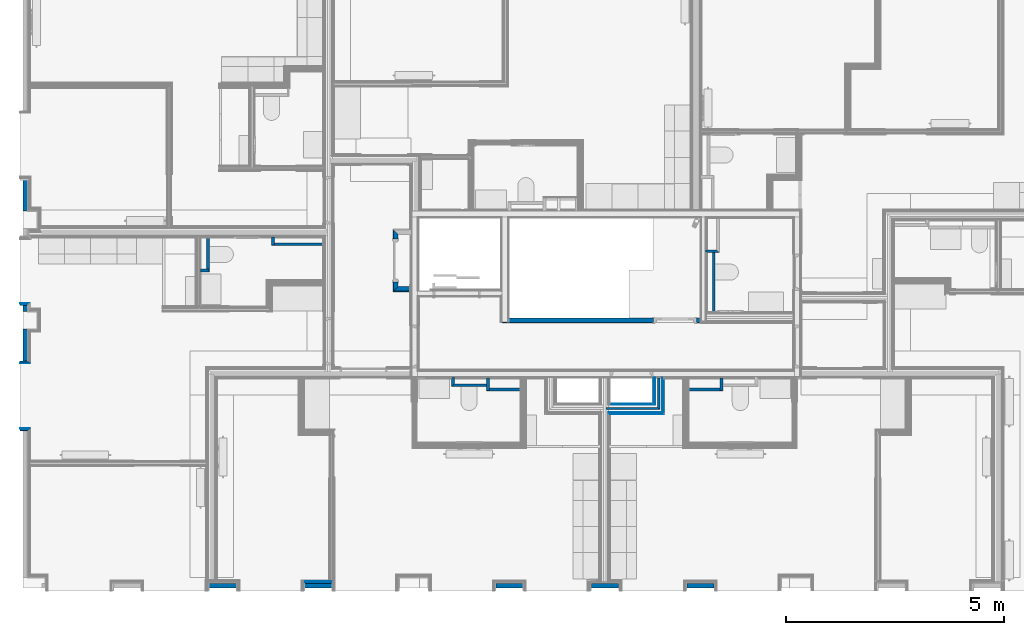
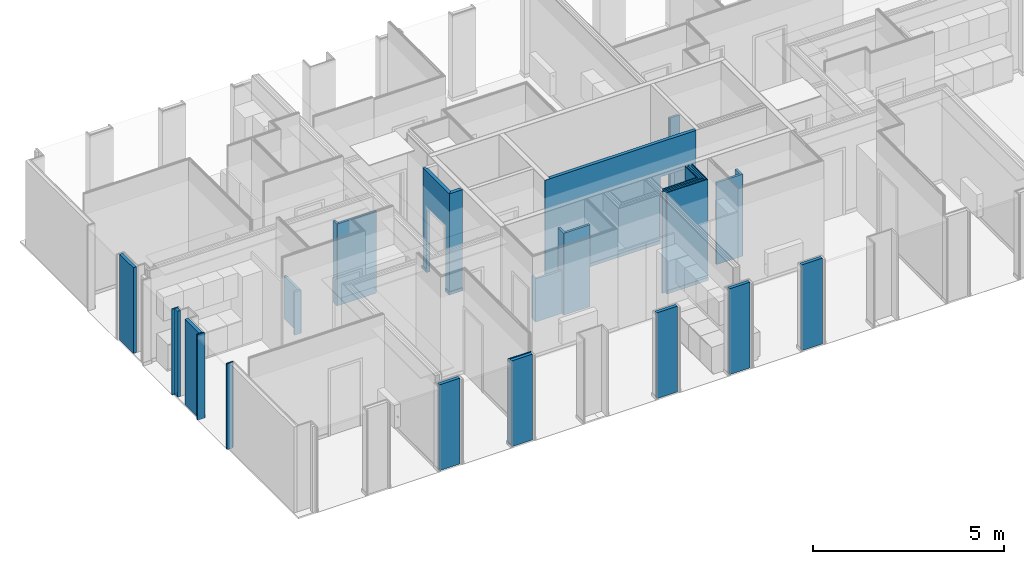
# One storey, part 2 of 64: 42 walls, 2 openings.
"""IFC2X3 building model written with IfcOpenShell, lengths in metres."""

from ifc_helpers import new_model, entity, si_unit, converted_unit, derived_unit, money_unit, direction, frame, frame_2d, origin_with_axes, place, context, subcontext, project, spatial, polyline, rectangle, outline, extrude, clip, bounded_halfspace, material, layer, layer_set, layer_usage, type_object, element, save


model = new_model("IFC2X3")

# Units and contexts
model_context = context("Model", 3, precision=1e-05, world=origin_with_axes(), true_north=direction((0.0, 1.0)))
body_context = subcontext(model_context, "Body", "Model", "MODEL_VIEW", scale=1.0)
ifc_project = project(units=[si_unit("LENGTHUNIT", "METRE"), si_unit("AREAUNIT", "SQUARE_METRE"), si_unit("VOLUMEUNIT", "CUBIC_METRE"), si_unit("ABSORBEDDOSEUNIT", "GRAY"), si_unit("AMOUNTOFSUBSTANCEUNIT", "MOLE"), si_unit("DOSEEQUIVALENTUNIT", "SIEVERT"), si_unit("ELECTRICCAPACITANCEUNIT", "FARAD"), si_unit("ELECTRICCHARGEUNIT", "COULOMB"), si_unit("ELECTRICCONDUCTANCEUNIT", "SIEMENS"), si_unit("ELECTRICCURRENTUNIT", "AMPERE"), si_unit("ELECTRICRESISTANCEUNIT", "OHM"), si_unit("ELECTRICVOLTAGEUNIT", "VOLT"), si_unit("ENERGYUNIT", "JOULE"), si_unit("FORCEUNIT", "NEWTON"), si_unit("FREQUENCYUNIT", "HERTZ"), si_unit("ILLUMINANCEUNIT", "LUX"), si_unit("INDUCTANCEUNIT", "HENRY"), si_unit("LUMINOUSFLUXUNIT", "LUMEN"), si_unit("LUMINOUSINTENSITYUNIT", "CANDELA"), si_unit("MAGNETICFLUXDENSITYUNIT", "TESLA"), si_unit("MAGNETICFLUXUNIT", "WEBER"), si_unit("MASSUNIT", "GRAM"), converted_unit("PLANEANGLEUNIT", "degree", entity("IfcReal", 0.0174532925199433), si_unit("PLANEANGLEUNIT", "RADIAN"), dimensions=[0, 0, 0, 0, 0, 0, 0]), si_unit("POWERUNIT", "WATT"), si_unit("PRESSUREUNIT", "PASCAL"), si_unit("RADIOACTIVITYUNIT", "BECQUEREL"), si_unit("SOLIDANGLEUNIT", "STERADIAN"), si_unit("THERMODYNAMICTEMPERATUREUNIT", "KELVIN"), si_unit("TIMEUNIT", "SECOND"), derived_unit("ACCELERATIONUNIT", [(si_unit("LENGTHUNIT", "METRE"), 1), (si_unit("TIMEUNIT", "SECOND"), -2)]), derived_unit("ANGULARVELOCITYUNIT", [(converted_unit("PLANEANGLEUNIT", "degree", entity("IfcReal", 0.0174532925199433), si_unit("PLANEANGLEUNIT", "RADIAN"), dimensions=[0, 0, 0, 0, 0, 0, 0]), 1), (si_unit("TIMEUNIT", "SECOND"), -1)]), derived_unit("CURVATUREUNIT", [(converted_unit("PLANEANGLEUNIT", "degree", entity("IfcReal", 0.0174532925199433), si_unit("PLANEANGLEUNIT", "RADIAN"), dimensions=[0, 0, 0, 0, 0, 0, 0]), 1), (si_unit("LENGTHUNIT", "METRE"), -1)]), derived_unit("DYNAMICVISCOSITYUNIT", [(si_unit("PRESSUREUNIT", "PASCAL"), 1), (si_unit("TIMEUNIT", "SECOND"), 1)]), derived_unit("HEATFLUXDENSITYUNIT", [(si_unit("POWERUNIT", "WATT"), 1), (si_unit("LENGTHUNIT", "METRE"), -2)]), derived_unit("HEATINGVALUEUNIT", [(si_unit("ENERGYUNIT", "JOULE"), 1), (si_unit("MASSUNIT", "GRAM"), -1)]), derived_unit("INTEGERCOUNTRATEUNIT", [(si_unit("TIMEUNIT", "SECOND"), -1)]), derived_unit("IONCONCENTRATIONUNIT", [(si_unit("MASSUNIT", "GRAM"), 1), (si_unit("VOLUMEUNIT", "CUBIC_METRE"), -1)]), derived_unit("ISOTHERMALMOISTURECAPACITYUNIT", [(si_unit("VOLUMEUNIT", "CUBIC_METRE"), 1), (si_unit("MASSUNIT", "GRAM"), -1)]), derived_unit("KINEMATICVISCOSITYUNIT", [(si_unit("AREAUNIT", "SQUARE_METRE"), 1), (si_unit("TIMEUNIT", "SECOND"), -1)]), derived_unit("LINEARFORCEUNIT", [(si_unit("FORCEUNIT", "NEWTON"), 1), (si_unit("LENGTHUNIT", "METRE"), -1)]), derived_unit("LINEARMOMENTUNIT", [(si_unit("FORCEUNIT", "NEWTON"), 1), (si_unit("LENGTHUNIT", "METRE"), -1)]), derived_unit("LINEARSTIFFNESSUNIT", [(si_unit("FORCEUNIT", "NEWTON"), 1), (si_unit("LENGTHUNIT", "METRE"), -1)]), derived_unit("LINEARVELOCITYUNIT", [(si_unit("LENGTHUNIT", "METRE"), 1), (si_unit("TIMEUNIT", "SECOND"), -1)]), derived_unit("LUMINOUSINTENSITYDISTRIBUTIONUNIT", [(si_unit("LUMINOUSINTENSITYUNIT", "CANDELA"), 1), (si_unit("LUMINOUSFLUXUNIT", "LUMEN"), -1)]), derived_unit("MASSDENSITYUNIT", [(si_unit("MASSUNIT", "GRAM"), 1), (si_unit("VOLUMEUNIT", "CUBIC_METRE"), -1)]), derived_unit("MASSFLOWRATEUNIT", [(si_unit("MASSUNIT", "GRAM"), 1), (si_unit("TIMEUNIT", "SECOND"), -1)]), derived_unit("MASSPERLENGTHUNIT", [(si_unit("MASSUNIT", "GRAM"), 1), (si_unit("LENGTHUNIT", "METRE"), -1)]), derived_unit("MODULUSOFELASTICITYUNIT", [(si_unit("FORCEUNIT", "NEWTON"), 1), (si_unit("AREAUNIT", "SQUARE_METRE"), -1)]), derived_unit("MODULUSOFLINEARSUBGRADEREACTIONUNIT", [(si_unit("FORCEUNIT", "NEWTON"), 1), (si_unit("LENGTHUNIT", "METRE"), -2)]), derived_unit("MODULUSOFROTATIONALSUBGRADEREACTIONUNIT", [(si_unit("FORCEUNIT", "NEWTON"), 1), (si_unit("LENGTHUNIT", "METRE"), 1)]), derived_unit("MODULUSOFSUBGRADEREACTIONUNIT", [(si_unit("FORCEUNIT", "NEWTON"), 1), (si_unit("VOLUMEUNIT", "CUBIC_METRE"), -1)]), derived_unit("MOISTUREDIFFUSIVITYUNIT", [(si_unit("VOLUMEUNIT", "CUBIC_METRE"), 1), (si_unit("TIMEUNIT", "SECOND"), -1)]), derived_unit("MOLECULARWEIGHTUNIT", [(si_unit("MASSUNIT", "GRAM"), 1), (si_unit("AMOUNTOFSUBSTANCEUNIT", "MOLE"), -1)]), derived_unit("PLANARFORCEUNIT", [(si_unit("FORCEUNIT", "NEWTON"), 1), (si_unit("LENGTHUNIT", "METRE"), -2)]), derived_unit("ROTATIONALFREQUENCYUNIT", [(si_unit("TIMEUNIT", "SECOND"), -1)]), derived_unit("ROTATIONALMASSUNIT", [(si_unit("MASSUNIT", "GRAM"), 1), (si_unit("LENGTHUNIT", "METRE"), 2)]), derived_unit("ROTATIONALSTIFFNESSUNIT", [(si_unit("FORCEUNIT", "NEWTON"), 1), (si_unit("LENGTHUNIT", "METRE"), 1), (converted_unit("PLANEANGLEUNIT", "degree", entity("IfcReal", 0.0174532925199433), si_unit("PLANEANGLEUNIT", "RADIAN"), dimensions=[0, 0, 0, 0, 0, 0, 0]), -1)]), derived_unit("SECTIONAREAINTEGRALUNIT", [(si_unit("LENGTHUNIT", "METRE"), 5)]), derived_unit("SECTIONMODULUSUNIT", [(si_unit("LENGTHUNIT", "METRE"), 3)]), derived_unit("SHEARMODULUSUNIT", [(si_unit("FORCEUNIT", "NEWTON"), 1), (si_unit("AREAUNIT", "SQUARE_METRE"), -1)]), derived_unit("SOUNDPOWERUNIT", [(si_unit("ENERGYUNIT", "JOULE"), 1), (si_unit("TIMEUNIT", "SECOND"), -1)]), derived_unit("SPECIFICHEATCAPACITYUNIT", [(si_unit("FORCEUNIT", "NEWTON"), 1), (si_unit("MASSUNIT", "GRAM"), -1), (si_unit("THERMODYNAMICTEMPERATUREUNIT", "KELVIN"), -1)]), derived_unit("TEMPERATUREGRADIENTUNIT", [(si_unit("THERMODYNAMICTEMPERATUREUNIT", "KELVIN"), 1), (si_unit("LENGTHUNIT", "METRE"), -1)]), derived_unit("THERMALADMITTANCEUNIT", [(si_unit("POWERUNIT", "WATT"), 1), (si_unit("AREAUNIT", "SQUARE_METRE"), -1), (si_unit("THERMODYNAMICTEMPERATUREUNIT", "KELVIN"), -1)]), derived_unit("THERMALCONDUCTANCEUNIT", [(si_unit("POWERUNIT", "WATT"), 1), (si_unit("LENGTHUNIT", "METRE"), -1), (si_unit("THERMODYNAMICTEMPERATUREUNIT", "KELVIN"), -1)]), derived_unit("THERMALEXPANSIONCOEFFICIENTUNIT", [(si_unit("THERMODYNAMICTEMPERATUREUNIT", "KELVIN"), -1)]), derived_unit("THERMALRESISTANCEUNIT", [(si_unit("AREAUNIT", "SQUARE_METRE"), 1), (si_unit("POWERUNIT", "WATT"), -1)]), derived_unit("THERMALTRANSMITTANCEUNIT", [(si_unit("POWERUNIT", "WATT"), 1), (si_unit("AREAUNIT", "SQUARE_METRE"), -1), (si_unit("THERMODYNAMICTEMPERATUREUNIT", "KELVIN"), -1)]), derived_unit("TORQUEUNIT", [(si_unit("FORCEUNIT", "NEWTON"), 1), (si_unit("LENGTHUNIT", "METRE"), 1)]), derived_unit("VAPORPERMEABILITYUNIT", [(si_unit("MASSUNIT", "GRAM"), 1), (si_unit("TIMEUNIT", "SECOND"), -1)]), derived_unit("VOLUMETRICFLOWRATEUNIT", [(si_unit("VOLUMEUNIT", "CUBIC_METRE"), 1), (si_unit("TIMEUNIT", "SECOND"), -1)]), derived_unit("WARPINGCONSTANTUNIT", [(si_unit("LENGTHUNIT", "METRE"), 6)]), derived_unit("WARPINGMOMENTUNIT", [(si_unit("FORCEUNIT", "NEWTON"), 1), (si_unit("LENGTHUNIT", "METRE"), 2)]), money_unit("GBP")], contexts=[model_context])

# Site, building, storey
site_placement = place(None, origin_with_axes())
site = spatial("IfcSite", under=ifc_project, at=site_placement, Name="Site", CompositionType="ELEMENT")
building_placement = place(site_placement, origin_with_axes())
building = spatial("IfcBuilding", under=site, at=building_placement, Name="Building01", CompositionType="ELEMENT")
storey_placement = place(building_placement, frame((0.0, 0.0, 8.64), z_axis=(0.0, 0.0, 1.0), x_axis=(1.0, 0.0, 0.0)))
storey = spatial("IfcBuildingStorey", under=building, at=storey_placement, Name="2F", CompositionType="ELEMENT", Elevation=8.64)

# Walls
ifc_material_1 = material(Name="A_BSUK_WallsExternal_Block")
ifc_layer_1 = layer(ifc_material_1, 0.1, ventilated=False)
ifc_layer_set_1 = layer_set([ifc_layer_1])
ifc_layer_usage_1 = layer_usage(ifc_layer_set_1, "AXIS2", "POSITIVE", 0.0)
wall_type_1 = type_object("IfcWallType", Name="A-Walls-ExternalBlock", PredefinedType="NOTDEFINED")
wall_1_placement = place(storey_placement, frame((0.17, 9.51418, 0.0), z_axis=(0.0, 0.0, 1.0), x_axis=(0.0, -1.0, 0.0)))
element("IfcWallStandardCase", 1, at=wall_1_placement, inside=storey, type_object=wall_type_1, material=ifc_layer_usage_1, Name="A-Walls-ExternalBlock", ObjectType="A-Walls-ExternalBlock", context=body_context, shape_type="SweptSolid", body=[
    extrude(rectangle(XDim=0.1, YDim=0.71418, at=frame_2d((0.35709, 0.05), x_axis=(0.0, -1.0))), origin_with_axes(), (0.0, 0.0, 1.0), 2.74),
])
wall_2_placement = place(storey_placement, frame((0.17, 6.64418, 0.0), z_axis=(0.0, 0.0, 1.0), x_axis=(0.0, -1.0, 0.0)))
element("IfcWallStandardCase", 2, at=wall_2_placement, inside=storey, type_object=wall_type_1, material=ifc_layer_usage_1, Name="A-Walls-ExternalBlock", ObjectType="A-Walls-ExternalBlock", context=body_context, shape_type="SweptSolid", body=[
    extrude(rectangle(XDim=0.14418, YDim=0.1, at=frame_2d((0.07209, 0.05), x_axis=(1.0, 0.0))), origin_with_axes(), (0.0, 0.0, 1.0), 2.74),
])
wall_3_placement = place(storey_placement, frame((0.17, 6.1, 0.0), z_axis=(0.0, 0.0, 1.0), x_axis=(0.0, -1.0, 0.0)))
element("IfcWallStandardCase", 3, at=wall_3_placement, inside=storey, type_object=wall_type_1, material=ifc_layer_usage_1, Name="A-Walls-ExternalBlock", ObjectType="A-Walls-ExternalBlock", context=body_context, shape_type="SweptSolid", body=[
    extrude(rectangle(XDim=0.737, YDim=0.1, at=frame_2d((0.3685, 0.05), x_axis=(1.0, 0.0))), origin_with_axes(), (0.0, 0.0, 1.0), 2.74),
])
for number, where, z_axis, x_axis, name in (
    (4, (5.057, 0.27, 0.0), (0.0, 0.0, 1.0), (-1.0, 0.0, 0.0), "A-Walls-ExternalBlock"),
    (5, (7.247, 0.27, 0.0), (0.0, 0.0, 1.0), (-1.0, 0.0, 0.0), "A-Walls-ExternalBlock"),
    (6, (11.627, 0.27, 0.0), (0.0, 0.0, 1.0), (-1.0, 0.0, 0.0), "A-Walls-ExternalBlock"),
    (7, (13.817, 0.27, 0.0), (0.0, 0.0, 1.0), (-1.0, 0.0, 0.0), "A-Walls-ExternalBlock"),
    (8, (16.007, 0.27, 0.0), (0.0, 0.0, 1.0), (-1.0, 0.0, 0.0), "A-Walls-ExternalBlock"),
):
    element("IfcWallStandardCase", number, at=place(storey_placement, frame(where, z_axis=z_axis, x_axis=x_axis)), inside=storey, type_object=wall_type_1, material=ifc_layer_usage_1, Name=name, ObjectType="A-Walls-ExternalBlock", context=body_context, shape_type="SweptSolid", body=[
        extrude(rectangle(XDim=0.624, YDim=0.1, at=frame_2d((0.312, 0.05), x_axis=(-1.0, 0.0))), origin_with_axes(), (0.0, 0.0, 1.0), 2.74),
    ])
ifc_material_2 = material(Name="A_BSUK_Walls_Timber")
ifc_layer_2 = layer(ifc_material_2, 0.015, ventilated=False)
ifc_material_3 = material(Name="A_BSUK_OpeningsClearance")
ifc_layer_3 = layer(ifc_material_3, 0.05, ventilated=False)
ifc_layer_set_2 = layer_set([ifc_layer_2, ifc_layer_3])
ifc_layer_usage_2 = layer_usage(ifc_layer_set_2, "AXIS2", "POSITIVE", 0.0)
wall_type_2 = type_object("IfcWallType", Name="SHE_A-Walls_Type05c_PreWallShell_65mm", PredefinedType="NOTDEFINED")
wall_4_placement = place(storey_placement, frame((15.815, 7.915, 0.0), z_axis=(0.0, 0.0, 1.0), x_axis=(1.0, 0.0, 0.0)))
element("IfcWallStandardCase", 9, at=wall_4_placement, inside=storey, type_object=wall_type_2, material=ifc_layer_usage_2, Name="5C", ObjectType="SHE_A-Walls_Type05c_PreWallShell_65mm", context=body_context, shape_type="SweptSolid", body=[
    extrude(outline(polyline([(0.25, 0.0), (0.0, 0.0), (0.0, -0.05), (0.03, -0.05), (0.03, -0.065), (0.315, -0.065), (0.25, 0.0)])), origin_with_axes(), (0.0, 0.0, 1.0), 2.615),
])
wall_5_placement = place(storey_placement, frame((15.965, 6.59, 0.0), z_axis=(0.0, 0.0, 1.0), x_axis=(0.0, 1.0, 0.0)))
element("IfcWallStandardCase", 10, at=wall_5_placement, inside=storey, type_object=wall_type_2, material=ifc_layer_usage_2, Name="5C", ObjectType="SHE_A-Walls_Type05c_PreWallShell_65mm", context=body_context, shape_type="SweptSolid", body=[
    extrude(outline(polyline([(1.275, -0.05), (1.275, 0.0), (-0.103, 0.0), (-0.103, -0.05), (-0.115, -0.05), (-0.115, -0.065), (1.325, -0.065), (1.325, -0.05), (1.275, -0.05)])), origin_with_axes(), (0.0, 0.0, 1.0), 1.375),
])
wall_6_placement = place(storey_placement, frame((16.1425, 4.695, 0.0), z_axis=(0.0, 0.0, 1.0), x_axis=(0.0, 1.0, 0.0)))
element("IfcWallStandardCase", 11, at=wall_6_placement, inside=storey, type_object=wall_type_2, material=ifc_layer_usage_2, Name="5C", ObjectType="SHE_A-Walls_Type05c_PreWallShell_65mm", context=body_context, shape_type="SweptSolid", body=[
    extrude(outline(polyline([(0.285, 0.0), (0.0, 0.0), (0.0, -0.05), (-0.015, -0.05), (-0.015, -0.065), (0.285, -0.065), (0.285, 0.0)])), origin_with_axes(), (0.0, 0.0, 1.0), 2.615),
])
wall_7_placement = place(storey_placement, frame((15.4075, 4.745, 0.0), z_axis=(0.0, 0.0, 1.0), x_axis=(1.0, 0.0, 0.0)))
element("IfcWallStandardCase", 12, at=wall_7_placement, inside=storey, type_object=wall_type_2, material=ifc_layer_usage_2, Name="5C", ObjectType="SHE_A-Walls_Type05c_PreWallShell_65mm", context=body_context, shape_type="SweptSolid", body=[
    extrude(outline(polyline([(0.735, -0.05), (0.735, 0.0), (0.0, 0.0), (0.0, -0.065), (0.785, -0.065), (0.785, -0.05), (0.735, -0.05)])), origin_with_axes(), (0.0, 0.0, 1.0), 2.615),
])
wall_8_placement = place(storey_placement, frame((10.057536, 4.845, 0.0), z_axis=(0.0, 0.0, 1.0), x_axis=(0.0, -1.0, 0.0)))
element("IfcWallStandardCase", 13, at=wall_8_placement, inside=storey, type_object=wall_type_2, material=ifc_layer_usage_2, Name="5C", ObjectType="SHE_A-Walls_Type05c_PreWallShell_65mm", context=body_context, shape_type="SweptSolid", body=[
    extrude(outline(polyline([(0.065, -0.065), (0.0, 0.0), (-0.15, 0.0), (-0.15, -0.05), (-0.12, -0.05), (-0.12, -0.065), (0.065, -0.065)])), origin_with_axes(), (0.0, 0.0, 1.0), 1.375),
])
wall_9_placement = place(storey_placement, frame((10.792536, 4.845, 0.0), z_axis=(0.0, 0.0, 1.0), x_axis=(1.0, 0.0, 0.0)))
element("IfcWallStandardCase", 14, at=wall_9_placement, inside=storey, type_object=wall_type_2, material=ifc_layer_usage_2, Name="5C", ObjectType="SHE_A-Walls_Type05c_PreWallShell_65mm", context=body_context, shape_type="SweptSolid", body=[
    extrude(outline(polyline([(0.0, -0.065), (0.0, 0.0), (-0.735, 0.0), (-0.8, -0.065), (0.0, -0.065)])), origin_with_axes(), (0.0, 0.0, 1.0), 1.375),
])
wall_10_placement = place(storey_placement, frame((10.857536, 4.695, 0.0), z_axis=(0.0, 0.0, 1.0), x_axis=(0.0, -1.0, 0.0)))
element("IfcWallStandardCase", 15, at=wall_10_placement, inside=storey, type_object=wall_type_2, material=ifc_layer_usage_2, Name="5C", ObjectType="SHE_A-Walls_Type05c_PreWallShell_65mm", context=body_context, shape_type="SweptSolid", body=[
    extrude(outline(polyline([(0.015, -0.065), (0.015, -0.05), (0.0, -0.05), (0.0, 0.0), (-0.285, 0.0), (-0.285, -0.065), (0.015, -0.065)])), origin_with_axes(), (0.0, 0.0, 1.0), 2.615),
])
wall_11_placement = place(storey_placement, frame((11.592536, 4.745, 0.0), z_axis=(0.0, 0.0, 1.0), x_axis=(1.0, 0.0, 0.0)))
element("IfcWallStandardCase", 16, at=wall_11_placement, inside=storey, type_object=wall_type_2, material=ifc_layer_usage_2, Name="5C", ObjectType="SHE_A-Walls_Type05c_PreWallShell_65mm", context=body_context, shape_type="SweptSolid", body=[
    extrude(outline(polyline([(0.0, -0.065), (0.0, 0.0), (-0.735, 0.0), (-0.735, -0.05), (-0.785, -0.05), (-0.785, -0.065), (0.0, -0.065)])), origin_with_axes(), (0.0, 0.0, 1.0), 2.615),
])
ifc_layer_set_3 = layer_set([ifc_layer_3, ifc_layer_2])
ifc_layer_usage_3 = layer_usage(ifc_layer_set_3, "AXIS2", "POSITIVE", 0.0)
wall_12_placement = place(storey_placement, frame((5.929669, 8.21067, 0.0), z_axis=(0.0, 0.0, 1.0), x_axis=(0.0, 1.0, 0.0)))
element("IfcWallStandardCase", 17, at=wall_12_placement, inside=storey, type_object=wall_type_2, material=ifc_layer_usage_3, Name="5C", ObjectType="SHE_A-Walls_Type05c_PreWallShell_65mm", context=body_context, shape_type="SweptSolid", body=[
    extrude(outline(polyline([(0.0, 0.0), (0.0, 0.065), (-0.2, 0.065), (-0.2, 0.05), (-0.185, 0.05), (-0.185, 0.0), (0.0, 0.0)])), origin_with_axes(), (0.0, 0.0, 1.0), 2.615),
])
wall_13_placement = place(storey_placement, frame((5.929669, 8.07567, 0.0), z_axis=(0.0, 0.0, 1.0), x_axis=(1.0, 0.0, 0.0)))
element("IfcWallStandardCase", 18, at=wall_13_placement, inside=storey, type_object=wall_type_2, material=ifc_layer_usage_2, Name="5C", ObjectType="SHE_A-Walls_Type05c_PreWallShell_65mm", context=body_context, shape_type="SweptSolid", body=[
    extrude(outline(polyline([(1.135, 0.0), (0.0, 0.0), (0.0, -0.05), (-0.05, -0.05), (-0.05, -0.065), (1.135, -0.065), (1.135, 0.0)])), origin_with_axes(), (0.0, 0.0, 1.0), 2.615),
])
wall_14_placement = place(storey_placement, frame((4.37573, 8.21067, 0.0), z_axis=(0.0, 0.0, 1.0), x_axis=(0.0, -1.0, 0.0)))
element("IfcWallStandardCase", 19, at=wall_14_placement, inside=storey, type_object=wall_type_2, material=ifc_layer_usage_3, Name="5C", ObjectType="SHE_A-Walls_Type05c_PreWallShell_65mm", context=body_context, shape_type="SweptSolid", body=[
    extrude(outline(polyline([(0.735, 0.05), (0.8, 0.05), (0.8, 0.065), (0.0, 0.065), (0.0, 0.0), (0.735, 0.0), (0.735, 0.05)])), origin_with_axes(), (0.0, 0.0, 1.0), 1.375),
])
wall_15_placement = place(storey_placement, frame((4.42573, 7.47567, 0.0), z_axis=(0.0, 0.0, 1.0), x_axis=(-1.0, 0.0, 0.0)))
element("IfcWallStandardCase", 20, at=wall_15_placement, inside=storey, type_object=wall_type_2, material=ifc_layer_usage_3, Name="5C", ObjectType="SHE_A-Walls_Type05c_PreWallShell_65mm", context=body_context, shape_type="SweptSolid", body=[
    extrude(rectangle(XDim=0.185, YDim=0.065, at=frame_2d((0.0925, 0.0325), x_axis=(-1.0, 0.0))), origin_with_axes(), (0.0, 0.0, 1.0), 1.375),
])
ifc_material_4 = material(Name="A_BSUK_WallInternal_Finishes_Plasterboard")
ifc_layer_4 = layer(ifc_material_4, 0.013, ventilated=False)
ifc_layer_set_4 = layer_set([ifc_layer_4])
ifc_layer_usage_4 = layer_usage(ifc_layer_set_4, "AXIS2", "POSITIVE", 0.0)
wall_type_3 = type_object("IfcWallType", Name="default", PredefinedType="NOTDEFINED")
wall_16_placement = place(storey_placement, frame((0.1, 6.67918, 0.0), z_axis=(0.0, 0.0, 1.0), x_axis=(1.0, 0.0, 0.0)))
element("IfcWallStandardCase", 21, at=wall_16_placement, inside=storey, type_object=wall_type_3, material=ifc_layer_usage_4, Name="default", ObjectType="default", context=body_context, shape_type="SweptSolid", body=[
    extrude(outline(polyline([(0.218, 0.013), (0.0, 0.013), (0.0, 0.0), (0.205, 0.0), (0.218, 0.013)])), origin_with_axes(), (0.0, 0.0, 1.0), 2.74),
])
ifc_material_5 = material(Name="A_BSUK_Insulation")
ifc_layer_5 = layer(ifc_material_5, 0.036, ventilated=False)
ifc_layer_set_5 = layer_set([ifc_layer_5])
ifc_layer_usage_5 = layer_usage(ifc_layer_set_5, "AXIS2", "POSITIVE", 0.0)
wall_17_placement = place(storey_placement, frame((0.1, 6.64418, 0.0), z_axis=(0.0, 0.0, 1.0), x_axis=(1.0, 0.0, 0.0)))
element("IfcWallStandardCase", 22, at=wall_17_placement, inside=storey, type_object=wall_type_3, material=ifc_layer_usage_5, Name="default", ObjectType="default", context=body_context, shape_type="SweptSolid", body=[
    extrude(outline(polyline([(0.206, 0.036), (0.0, 0.036), (0.0, 0.0), (0.17, 0.0), (0.206, 0.036)])), origin_with_axes(), (0.0, 0.0, 1.0), 2.74),
])
wall_18_placement = place(storey_placement, frame((0.305, 5.328, 0.0), z_axis=(0.0, 0.0, 1.0), x_axis=(-1.0, 0.0, 0.0)))
element("IfcWallStandardCase", 23, at=wall_18_placement, inside=storey, type_object=wall_type_3, material=ifc_layer_usage_4, Name="default", ObjectType="default", context=body_context, shape_type="SweptSolid", body=[
    extrude(outline(polyline([(-0.013, 0.013), (0.0, 0.0), (0.205, 0.0), (0.205, 0.013), (-0.013, 0.013)])), origin_with_axes(), (0.0, 0.0, 1.0), 2.74),
])
wall_19_placement = place(storey_placement, frame((0.27, 5.363, 0.0), z_axis=(0.0, 0.0, 1.0), x_axis=(-1.0, 0.0, 0.0)))
element("IfcWallStandardCase", 24, at=wall_19_placement, inside=storey, type_object=wall_type_3, material=ifc_layer_usage_5, Name="default", ObjectType="default", context=body_context, shape_type="SweptSolid", body=[
    extrude(outline(polyline([(-0.036, 0.036), (0.0, 0.0), (0.17, 0.0), (0.17, 0.036), (-0.036, 0.036)])), origin_with_axes(), (0.0, 0.0, 1.0), 2.74),
])
wall_20_placement = place(storey_placement, frame((0.1, 3.80918, 0.0), z_axis=(0.0, 0.0, 1.0), x_axis=(1.0, 0.0, 0.0)))
element("IfcWallStandardCase", 25, at=wall_20_placement, inside=storey, type_object=wall_type_3, material=ifc_layer_usage_4, Name="default", ObjectType="default", context=body_context, shape_type="SweptSolid", body=[
    extrude(outline(polyline([(0.218, 0.013), (0.0, 0.013), (0.0, 0.0), (0.205, 0.0), (0.218, 0.013)])), origin_with_axes(), (0.0, 0.0, 1.0), 2.74),
])
wall_21_placement = place(storey_placement, frame((0.1, 3.77418, 0.0), z_axis=(0.0, 0.0, 1.0), x_axis=(1.0, 0.0, 0.0)))
element("IfcWallStandardCase", 26, at=wall_21_placement, inside=storey, type_object=wall_type_3, material=ifc_layer_usage_5, Name="default", ObjectType="default", context=body_context, shape_type="SweptSolid", body=[
    extrude(outline(polyline([(0.206, 0.036), (0.0, 0.036), (0.0, 0.0), (0.17, 0.0), (0.206, 0.036)])), origin_with_axes(), (0.0, 0.0, 1.0), 2.74),
])
ifc_layer_6 = layer(ifc_material_4, 0.015, ventilated=False)
ifc_layer_set_6 = layer_set([ifc_layer_6])
ifc_layer_usage_6 = layer_usage(ifc_layer_set_6, "AXIS2", "POSITIVE", 0.0)
wall_22_placement = place(storey_placement, frame((14.625, 4.389428, 0.0), z_axis=(0.0, 0.0, 1.0), x_axis=(-1.0, 0.0, 0.0)))
element("IfcWallStandardCase", 27, at=wall_22_placement, inside=storey, type_object=wall_type_3, material=ifc_layer_usage_6, Name="default", ObjectType="default", context=body_context, shape_type="SweptSolid", body=[
    extrude(outline(polyline([(1.0275, 0.015), (-0.015, 0.015), (0.0, 0.0), (1.0275, 0.0), (1.0275, 0.015)])), origin_with_axes(), (0.0, 0.0, 1.0), 3.24),
])
wall_23_placement = place(storey_placement, frame((14.64, 4.374428, 0.0), z_axis=(0.0, 0.0, 1.0), x_axis=(-1.0, 0.0, 0.0)))
element("IfcWallStandardCase", 28, at=wall_23_placement, inside=storey, type_object=wall_type_3, material=ifc_layer_usage_6, Name="default", ObjectType="default", context=body_context, shape_type="SweptSolid", body=[
    extrude(outline(polyline([(1.0425, 0.015), (-0.015, 0.015), (0.0, 0.0), (1.0425, 0.0), (1.0425, 0.015)])), origin_with_axes(), (0.0, 0.0, 1.0), 3.24),
])
ifc_layer_7 = layer(ifc_material_5, 0.05, ventilated=False)
ifc_layer_set_7 = layer_set([ifc_layer_7])
ifc_layer_usage_7 = layer_usage(ifc_layer_set_7, "AXIS2", "POSITIVE", 0.0)
wall_24_placement = place(storey_placement, frame((14.712, 4.302428, 0.0), z_axis=(0.0, 0.0, 1.0), x_axis=(-1.0, 0.0, 0.0)))
element("IfcWallStandardCase", 29, at=wall_24_placement, inside=storey, type_object=wall_type_3, material=ifc_layer_usage_7, Name="default", ObjectType="default", context=body_context, shape_type="SweptSolid", body=[
    extrude(outline(polyline([(1.1865, 0.05), (-0.05, 0.05), (0.0, 0.0), (1.1865, 0.0), (1.1865, 0.05)])), origin_with_axes(), (0.0, 0.0, 1.0), 3.24),
])
for number, where, z_axis, x_axis, name in (
    (30, (14.82, 4.194428, 0.0), (0.0, 0.0, 1.0), (-1.0, 0.0, 0.0), "default"),
    (31, (14.835, 4.179428, 0.0), (0.0, 0.0, 1.0), (-1.0, 0.0, 0.0), "default"),
):
    element("IfcWallStandardCase", number, at=place(storey_placement, frame(where, z_axis=z_axis, x_axis=x_axis)), inside=storey, type_object=wall_type_3, material=ifc_layer_usage_6, Name=name, ObjectType="default", context=body_context, shape_type="SweptSolid", body=[
        extrude(outline(polyline([(1.2225, 0.015), (-0.015, 0.015), (0.0, 0.0), (1.2225, 0.0), (1.2225, 0.015)])), origin_with_axes(), (0.0, 0.0, 1.0), 3.24),
    ])
ifc_layer_set_8 = layer_set([ifc_layer_2])
ifc_layer_usage_8 = layer_usage(ifc_layer_set_8, "AXIS2", "POSITIVE", 0.0)
wall_25_placement = place(storey_placement, frame((14.865, 4.164428, 0.015), z_axis=(0.0, 0.0, 1.0), x_axis=(-1.0, 0.0, 0.0)))
element("IfcWallStandardCase", 32, at=wall_25_placement, inside=storey, type_object=wall_type_3, material=ifc_layer_usage_8, Name="default", ObjectType="default", context=body_context, shape_type="SweptSolid", body=[
    extrude(rectangle(XDim=1.2375, YDim=0.015, at=frame_2d((0.61875, 0.0075), x_axis=(-1.0, 0.0))), origin_with_axes(), (0.0, 0.0, 1.0), 0.1),
])
wall_26_placement = place(storey_placement, frame((14.625, 4.98, 0.0), z_axis=(0.0, 0.0, 1.0), x_axis=(0.0, -1.0, 0.0)))
element("IfcWallStandardCase", 33, at=wall_26_placement, inside=storey, type_object=wall_type_3, material=ifc_layer_usage_6, Name="default", ObjectType="default", context=body_context, shape_type="SweptSolid", body=[
    extrude(outline(polyline([(0.605572, 0.015), (0.0, 0.015), (0.0, 0.0), (0.590572, 0.0), (0.605572, 0.015)])), origin_with_axes(), (0.0, 0.0, 1.0), 3.24),
])
wall_27_placement = place(storey_placement, frame((14.64, 4.98, 0.0), z_axis=(0.0, 0.0, 1.0), x_axis=(0.0, -1.0, 0.0)))
element("IfcWallStandardCase", 34, at=wall_27_placement, inside=storey, type_object=wall_type_3, material=ifc_layer_usage_6, Name="default", ObjectType="default", context=body_context, shape_type="SweptSolid", body=[
    extrude(outline(polyline([(0.620572, 0.015), (0.0, 0.015), (0.0, 0.0), (0.605572, 0.0), (0.620572, 0.015)])), origin_with_axes(), (0.0, 0.0, 1.0), 3.24),
])
wall_28_placement = place(storey_placement, frame((14.712, 4.98, 0.0), z_axis=(0.0, 0.0, 1.0), x_axis=(0.0, -1.0, 0.0)))
element("IfcWallStandardCase", 35, at=wall_28_placement, inside=storey, type_object=wall_type_3, material=ifc_layer_usage_7, Name="default", ObjectType="default", context=body_context, shape_type="SweptSolid", body=[
    extrude(outline(polyline([(0.727572, 0.05), (0.0, 0.05), (0.0, 0.0), (0.677572, 0.0), (0.727572, 0.05)])), origin_with_axes(), (0.0, 0.0, 1.0), 3.24),
])
wall_29_placement = place(storey_placement, frame((14.82, 4.98, 0.0), z_axis=(0.0, 0.0, 1.0), x_axis=(0.0, -1.0, 0.0)))
element("IfcWallStandardCase", 36, at=wall_29_placement, inside=storey, type_object=wall_type_3, material=ifc_layer_usage_6, Name="default", ObjectType="default", context=body_context, shape_type="SweptSolid", body=[
    extrude(outline(polyline([(0.800572, 0.015), (0.0, 0.015), (0.0, 0.0), (0.785572, 0.0), (0.800572, 0.015)])), origin_with_axes(), (0.0, 0.0, 1.0), 3.24),
])
wall_30_placement = place(storey_placement, frame((14.835, 4.98, 0.0), z_axis=(0.0, 0.0, 1.0), x_axis=(0.0, -1.0, 0.0)))
element("IfcWallStandardCase", 37, at=wall_30_placement, inside=storey, type_object=wall_type_3, material=ifc_layer_usage_6, Name="default", ObjectType="default", context=body_context, shape_type="SweptSolid", body=[
    extrude(outline(polyline([(0.815572, 0.015), (0.0, 0.015), (0.0, 0.0), (0.800572, 0.0), (0.815572, 0.015)])), origin_with_axes(), (0.0, 0.0, 1.0), 3.24),
])
wall_31_placement = place(storey_placement, frame((6.588, 0.305, 0.0), z_axis=(0.0, 0.0, 1.0), x_axis=(1.0, 0.0, 0.0)))
element("IfcWallStandardCase", 38, at=wall_31_placement, inside=storey, type_object=wall_type_3, material=ifc_layer_usage_4, Name="default", ObjectType="default", context=body_context, shape_type="SweptSolid", body=[
    extrude(outline(polyline([(0.707, 0.013), (-0.013, 0.013), (0.0, 0.0), (0.694, 0.0), (0.707, 0.013)])), origin_with_axes(), (0.0, 0.0, 1.0), 2.74),
])
wall_32_placement = place(storey_placement, frame((6.623, 0.27, 0.0), z_axis=(0.0, 0.0, 1.0), x_axis=(1.0, 0.0, 0.0)))
element("IfcWallStandardCase", 39, at=wall_32_placement, inside=storey, type_object=wall_type_3, material=ifc_layer_usage_5, Name="default", ObjectType="default", context=body_context, shape_type="SweptSolid", body=[
    extrude(outline(polyline([(0.66, 0.036), (-0.036, 0.036), (0.0, 0.0), (0.624, 0.0), (0.66, 0.036)])), origin_with_axes(), (0.0, 0.0, 1.0), 2.74),
])
ifc_material_6 = material(Name="Air Cavity")
ifc_layer_8 = layer(ifc_material_6, 0.072, ventilated=False)
ifc_layer_set_9 = layer_set([ifc_layer_6, ifc_layer_8, ifc_layer_6, ifc_layer_2])
ifc_layer_usage_9 = layer_usage(ifc_layer_set_9, "AXIS2", "POSITIVE", 0.0)
wall_type_4 = type_object("IfcWallType", Name="SHE_A-Walls_Type04c_RiserWall_102mm_tall", PredefinedType="NOTDEFINED")
wall_33_placement = place(storey_placement, frame((9.06, 6.968405, 0.015), z_axis=(0.0, 0.0, 1.0), x_axis=(-1.0, 0.0, 0.0)))
element("IfcWallStandardCase", 40, at=wall_33_placement, inside=storey, type_object=wall_type_4, material=ifc_layer_usage_9, Name="4C", ObjectType="SHE_A-Walls_Type04c_RiserWall_102mm_tall", context=body_context, shape_type="Clipping", body=[
    clip(clip(extrude(outline(polyline([(0.417, 0.015), (0.0, 0.015), (0.0, -0.015), (0.015, -0.015), (0.015, -0.102), (0.3, -0.102), (0.417, 0.015)])), frame((0.0, 0.0, -0.015), z_axis=(0.0, 0.0, 1.0), x_axis=(1.0, 0.0, 0.0)), (0.0, 0.0, 1.0), 3.24), bounded_halfspace(frame((0.0, 0.0, 0.1), z_axis=(0.0, 0.0, 1.0), x_axis=(1.0, 0.0, 0.0)), False, frame((0.0, 0.0, 0.1), z_axis=(0.0, 0.0, 1.0), x_axis=(1.0, 0.0, 0.0)), polyline([(0.417, 0.015), (0.0, 0.015), (0.0, 0.0), (0.402, 0.0), (0.417, 0.015)]))), bounded_halfspace(frame((0.0, 0.0, 0.0), z_axis=(0.0, 0.0, -1.0), x_axis=(-1.0, 0.0, 0.0)), False, frame((0.0, 0.0, 0.0), z_axis=(0.0, 0.0, -1.0), x_axis=(-1.0, 0.0, 0.0)), polyline([(-0.402, 0.0), (0.0, 0.0), (0.0, 0.015), (-0.417, 0.015), (-0.402, 0.0)]))),
])

# Wall, opening
wall_34_placement = place(storey_placement, frame((8.658, 6.968405, 0.015), z_axis=(0.0, 0.0, 1.0), x_axis=(0.0, 1.0, 0.0)))
wall_34 = element("IfcWallStandardCase", 41, at=wall_34_placement, inside=storey, type_object=wall_type_4, material=ifc_layer_usage_9, Name="4C", ObjectType="SHE_A-Walls_Type04c_RiserWall_102mm_tall", context=body_context, shape_type="Clipping", body=[
    clip(clip(extrude(outline(polyline([(1.389, -0.015), (1.389, 0.0), (1.404, 0.0), (1.419, 0.015), (-0.015, 0.015), (0.102, -0.102), (1.302, -0.102), (1.389, -0.015)])), frame((0.0, 0.0, -0.015), z_axis=(0.0, 0.0, 1.0), x_axis=(1.0, 0.0, 0.0)), (0.0, 0.0, 1.0), 3.24), bounded_halfspace(frame((0.0, 0.0, 0.1), z_axis=(0.0, 0.0, 1.0), x_axis=(1.0, 0.0, 0.0)), False, frame((0.0, 0.0, 0.1), z_axis=(0.0, 0.0, 1.0), x_axis=(1.0, 0.0, 0.0)), polyline([(1.419, 0.015), (-0.015, 0.015), (0.0, 0.0), (1.404, 0.0), (1.419, 0.015)]))), bounded_halfspace(frame((0.0, 0.0, 0.0), z_axis=(0.0, 0.0, -1.0), x_axis=(-1.0, 0.0, 0.0)), False, frame((0.0, 0.0, 0.0), z_axis=(0.0, 0.0, -1.0), x_axis=(-1.0, 0.0, 0.0)), polyline([(-1.404, 0.0), (0.0, 0.0), (0.015, 0.015), (-1.419, 0.015), (-1.404, 0.0)]))),
])
opening_1_placement = place(wall_34_placement, frame((0.21, -0.102, -0.015), z_axis=(0.0, 0.0, 1.0), x_axis=(1.0, 0.0, 0.0)))
element("IfcOpeningElement", 42, at=opening_1_placement, cuts=wall_34, Name="Opening", ObjectType="Opening", context=body_context, shape_type="SweptSolid", body=[
    extrude(rectangle(XDim=0.984, YDim=2.1, at=frame_2d((-0.492, 1.05), x_axis=(1.0, 0.0))), frame((0.0, 0.0, 0.0), z_axis=(0.0, 1.0, 0.0), x_axis=(-1.0, 0.0, 0.0)), (0.0, 0.0, 1.0), 0.117),
])

ifc_layer_9 = layer(ifc_material_4, 0.012, ventilated=False)
ifc_layer_10 = layer(ifc_material_6, 0.05, ventilated=False)
ifc_layer_set_10 = layer_set([ifc_layer_2, ifc_layer_4, ifc_layer_9, ifc_layer_10, ifc_layer_9, ifc_layer_4])
ifc_layer_usage_10 = layer_usage(ifc_layer_set_10, "AXIS2", "POSITIVE", 0.0)
wall_type_5 = type_object("IfcWallType", Name="SHE_A-Walls_Type03c_Firewall_F120_100mm", PredefinedType="NOTDEFINED")
wall_35_placement = place(storey_placement, frame((11.115, 6.25, 0.015), z_axis=(0.0, 0.0, 1.0), x_axis=(1.0, 0.0, 0.0)))
wall_35 = element("IfcWallStandardCase", 43, at=wall_35_placement, inside=storey, type_object=wall_type_5, material=ifc_layer_usage_10, Name="3C", ObjectType="SHE_A-Walls_Type03c_Firewall_F120_100mm", context=body_context, shape_type="Clipping", body=[
    clip(clip(extrude(outline(polyline([(4.585, 0.0), (4.585, 0.1), (0.185, 0.1), (0.185, 0.013), (0.015, 0.013), (0.015, 0.0), (0.0, 0.0), (0.0, -0.015), (4.57, -0.015), (4.585, 0.0)])), frame((0.0, 0.0, -0.015), z_axis=(0.0, 0.0, 1.0), x_axis=(1.0, 0.0, 0.0)), (0.0, 0.0, 1.0), 3.24), bounded_halfspace(frame((0.0, 0.0, 0.1), z_axis=(0.0, 0.0, 1.0), x_axis=(1.0, 0.0, 0.0)), False, frame((0.0, 0.0, 0.1), z_axis=(0.0, 0.0, 1.0), x_axis=(1.0, 0.0, 0.0)), polyline([(4.585, 0.0), (0.0, 0.0), (0.0, -0.015), (4.57, -0.015), (4.585, 0.0)]))), bounded_halfspace(frame((0.0, 0.0, 0.0), z_axis=(0.0, 0.0, -1.0), x_axis=(-1.0, 0.0, 0.0)), False, frame((0.0, 0.0, 0.0), z_axis=(0.0, 0.0, -1.0), x_axis=(-1.0, 0.0, 0.0)), polyline([(-4.57, -0.015), (0.0, -0.015), (0.0, 0.0), (-4.585, 0.0), (-4.57, -0.015)]))),
])
opening_2_placement = place(wall_35_placement, frame((3.501, -0.015, -0.03), z_axis=(0.0, 0.0, 1.0), x_axis=(1.0, 0.0, 0.0)))
element("IfcOpeningElement", 44, at=opening_2_placement, cuts=wall_35, Name="Opening", ObjectType="Opening", context=body_context, shape_type="SweptSolid", body=[
    extrude(rectangle(XDim=2.142, YDim=0.984, at=frame_2d((-0.492, 1.071), x_axis=(0.0, 1.0))), frame((0.0, 0.0, 0.0), z_axis=(0.0, 1.0, 0.0), x_axis=(-1.0, 0.0, 0.0)), (0.0, 0.0, 1.0), 0.115),
])

save(model, "model.ifc")
